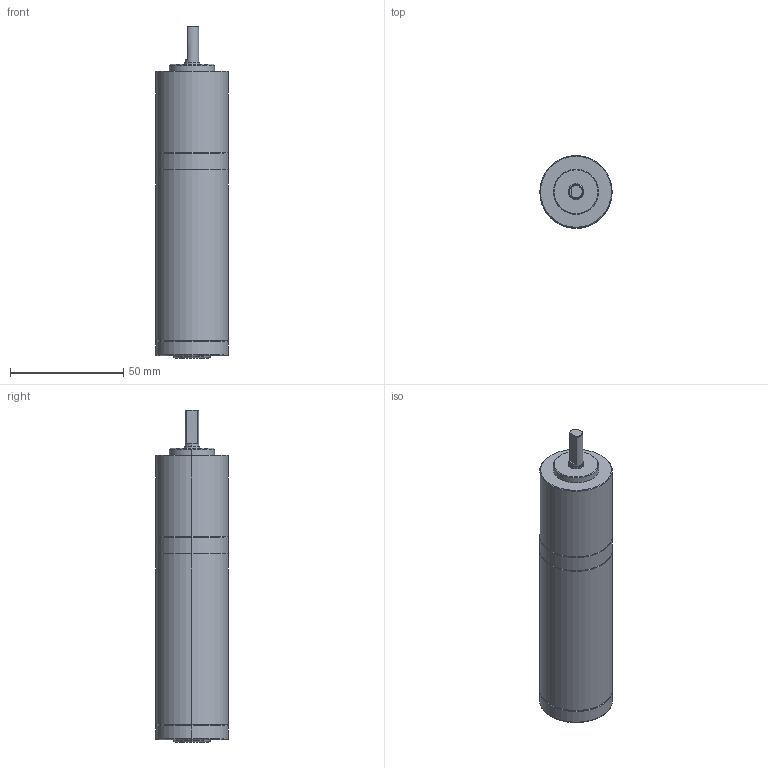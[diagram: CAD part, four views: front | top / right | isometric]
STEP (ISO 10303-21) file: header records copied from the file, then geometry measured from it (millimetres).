
FILE_DESCRIPTION (( 'STEP AP203' ), '1' );
FILE_NAME ('32BLD熬厒掀謗撰淕儂.STEP', '2021-07-13T05:07:41', ( '' ), ( '' ), 'SwSTEP 2.0', 'SolidWorks 2021', '' );
FILE_SCHEMA (( 'CONFIG_CONTROL_DESIGN' ));
Length unit declared in the file: millimetre
Products named in the file (1): 32BLD熬厒掀謗撰淕儂
Bounding box: 32 x 32 x 146.9 mm (x, y, z)
Volume: 102488.5 mm3; surface area: 14836 mm2
Topology: 1 solids, 1 shells, 45 faces, 101 edges, 64 vertices
Faces by surface type: cone 15, cylinder 14, plane 10, torus 6
Entity records: 1655 total; most frequent: CARTESIAN_POINT 517, DIRECTION 254, ORIENTED_EDGE 202, AXIS2_PLACEMENT_3D 111, EDGE_CURVE 101, CIRCLE 65, VERTEX_POINT 64, EDGE_LOOP 51
